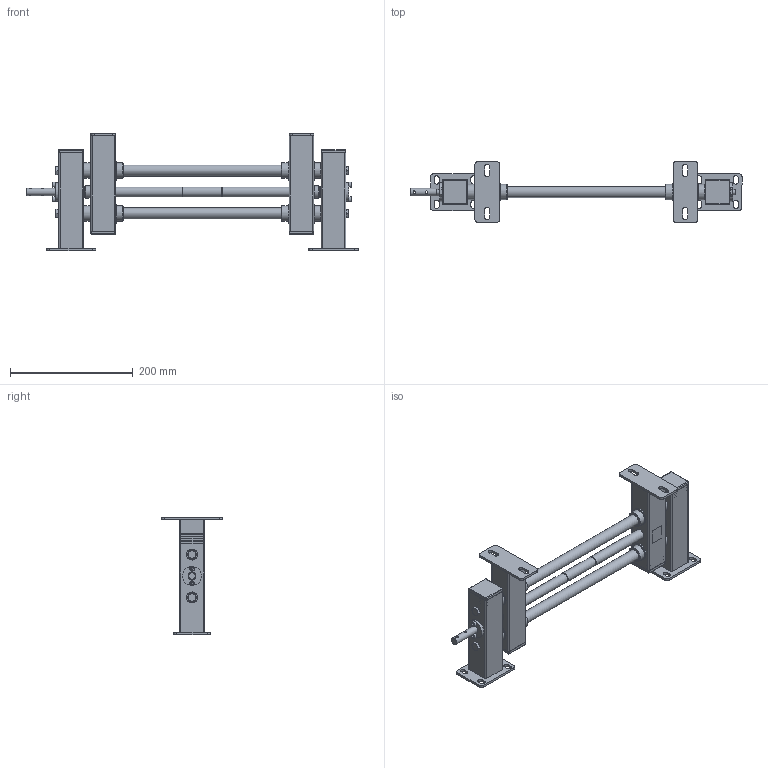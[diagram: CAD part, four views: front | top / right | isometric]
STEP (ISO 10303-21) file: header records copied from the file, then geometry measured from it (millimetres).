
FILE_DESCRIPTION(/* description */ ('SIDE ADJUSTMENT FOR SIDE GRIP CONVEYOR'),/* implementation_level */ '2;1');
FILE_NAME(/* name */ '\\carryline.intra\privat\users\mathias\Desktop\Tillfälliga filer\100-1400.stp',/* time_stamp */ '2018-11-20T10:29:29+01:00',/* author */ ('ML'),/* organization */ ('CARRYLINE'),/* preprocessor_version */ 'ST-DEVELOPER v17',/* originating_system */ 'Autodesk Inventor 2018',/* authorisation */ '');
FILE_SCHEMA (('AUTOMOTIVE_DESIGN { 1 0 10303 214 3 1 1 }'));
Length unit declared in the file: millimetre
Products named in the file (20): 100-1400-0-200; 15975_3; 15975_5; 15975_1; 15975_7; 15975_10; 15957_9; 15975_8; 15975_2; 15975_6; 15975_4; 5590-25; 5510-516; 15975_11; ISO 4026 - M5 x 5; 15975_19; 15975_14; 17078; 500-2010; 5500-816
Assembly tree (51 placements, depth 3):
  100-1400-0-200
    15975_4  x4
    15975_3  x2
    15975_5  x2
      15975_1
      15975_7
    15975_8  x2
      15975_2
      15975_6
    15975_10
    15957_9
    5590-25  x8
    5510-516  x4
    15975_11  x2
    ISO 4026 - M5 x 5  x2
    15975_14  x2
    15975_19
    17078  x8
    500-2010  x4
    5500-816  x4
Bounding box: 541.5 x 100 x 192 mm (x, y, z)
Volume: 746925.9 mm3; surface area: 438879 mm2
Topology: 55 solids, 55 shells, 1077 faces, 2733 edges, 1794 vertices
Faces by surface type: plane 592, cylinder 261, cone 200, sphere 16, torus 8
Full cylindrical faces by diameter (mm): 2 x16, 4 x2, 4.134 x6, 5 x10, 6.647 x4, 8 x4, 8.5 x8, 11.63 x4, 12 x4, 12.3 x2, 13.835 x2, 16 x3, 18 x24, 19 x4, 20 x18, 23.9 x8, 25 x20, 31 x2
Entity records: 11721 total; most frequent: CARTESIAN_POINT 2263, DIRECTION 1893, ORIENTED_EDGE 1748, EDGE_CURVE 874, AXIS2_PLACEMENT_3D 702, VERTEX_POINT 583, LINE 489, VECTOR 489
